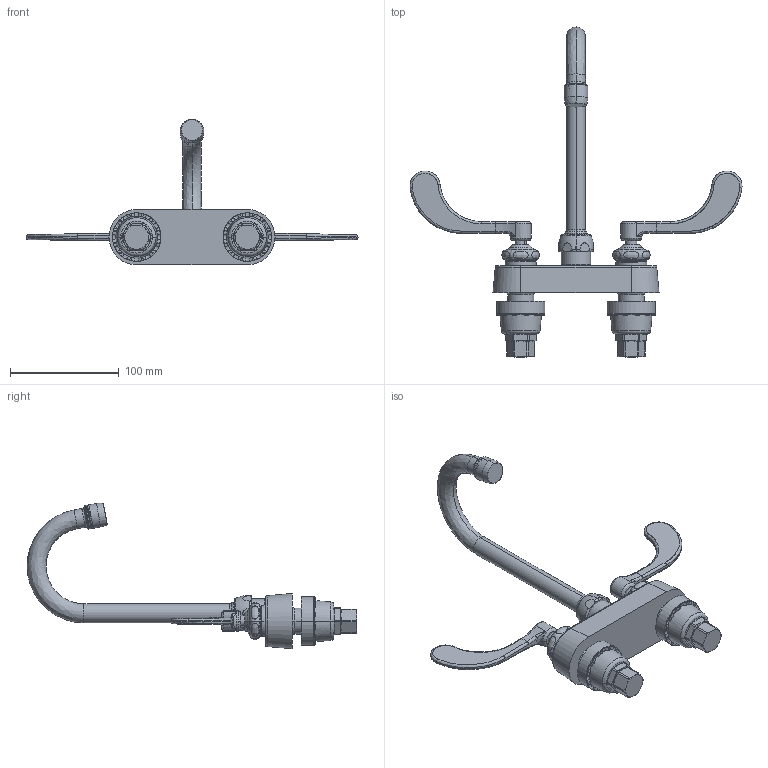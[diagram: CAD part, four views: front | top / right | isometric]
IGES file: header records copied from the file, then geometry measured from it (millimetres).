
Start section:  PTC IGES file: 895-317ABCP_REV050510.igs
Global section: file name: 895-317ABCP_REV050510.igs; native system: Pro/ENGINEER by Parametric Technology Corporation; preprocessor: 2009230; author: sdmitruk; organization: Unknown; date: 20100505.140447; units: inch
Bounding box: 304.8 x 302.86 x 133.64 mm (x, y, z)
Surface area: 90084 mm2 (no closed solid volume)
Topology: 0 solids, 0 shells, 468 faces, 3665 edges, 4919 vertices
Faces by surface type: revolution 337, bspline 131
